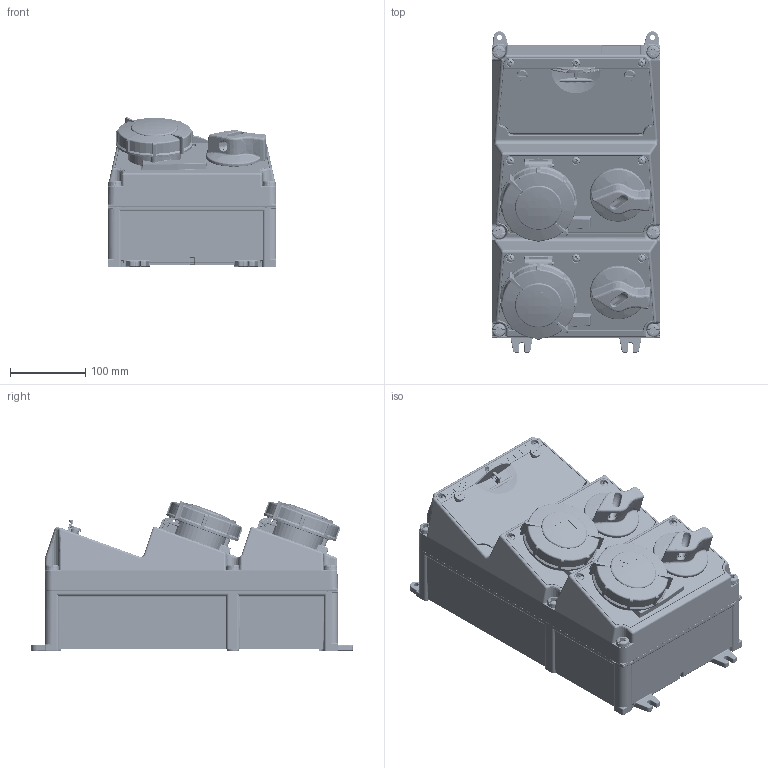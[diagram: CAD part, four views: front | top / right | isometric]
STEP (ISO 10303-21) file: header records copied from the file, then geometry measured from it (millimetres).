
FILE_DESCRIPTION((''),'2;1');
FILE_NAME('932285-0_ASM','2018-06-12T',('menccconvadm'),('MENNEKES'),'PRO/ENGINEER BY PARAMETRIC TECHNOLOGY CORPORATION, 2015440','PRO/ENGINEER BY PARAMETRIC TECHNOLOGY CORPORATION, 2015440','');
FILE_SCHEMA(('AUTOMOTIVE_DESIGN { 1 0 10303 214 1 1 1 1 }'));
Products named in the file (25): 3-4_SW_G_GRAU; PLATZHALTER_GKS2; PLATZHALTER_GKS3; PLATZHALTER_GKS4; PLATZHALTER_GKS5; PLATZHALTER_GKS6; PLATZHALTER_GKS7; PLATZHALTER_GKS8; PLATZHALTER_GKS9; PLATZHALTER_GKS10; PLATZHALTER_GKS11; PLATZHALTER_GKS12; PLATZHALTER_GKS13; PLATZHALTER_GKS14; PLATZHALTER_GKS15; PLATZHALTER_GKS16; PLATZHALTER_GKS17; PLATZHALTER_GKS18; PLATZHALTER_GKS19; PLATZHALTER_GKS20; FI_4POL_4TE; MP_FEN10_67_OBEN_GRAU; BAUTEIL_DUMMY_; MP_DUO_32_5_67_ROT_GRAU; 932285-0_ASM
Assembly tree (26 placements, depth 2):
  932285-0_ASM
    3-4_SW_G_GRAU
    PLATZHALTER_GKS2
    PLATZHALTER_GKS3
    PLATZHALTER_GKS4
    PLATZHALTER_GKS5
    PLATZHALTER_GKS6
    PLATZHALTER_GKS7
    PLATZHALTER_GKS8
    PLATZHALTER_GKS9
    PLATZHALTER_GKS10
    PLATZHALTER_GKS11
    PLATZHALTER_GKS12
    PLATZHALTER_GKS13
    PLATZHALTER_GKS14
    PLATZHALTER_GKS15
    PLATZHALTER_GKS16
    PLATZHALTER_GKS17
    PLATZHALTER_GKS18
    PLATZHALTER_GKS19
    PLATZHALTER_GKS20
    FI_4POL_4TE  x2
    MP_FEN10_67_OBEN_GRAU
    BAUTEIL_DUMMY_
    MP_DUO_32_5_67_ROT_GRAU  x2
Bounding box: 225 x 428.2 x 199.08 mm (x, y, z)
Volume: 9724817.3 mm3; surface area: 1042070.9 mm2
Topology: 12 solids, 12 shells, 12791 faces, 33873 edges, 21295 vertices
Faces by surface type: plane 6766, cylinder 3023, bspline 1389, torus 830, cone 387, sphere 286, extrusion 110
Entity records: 422706 total; most frequent: CARTESIAN_POINT 122097, ORIENTED_EDGE 45072, DIRECTION 38901, EDGE_CURVE 22536, PRESENTATION_STYLE_ASSIGNMENT 18975, STYLED_ITEM 15867, VERTEX_POINT 14046, VECTOR 13167
